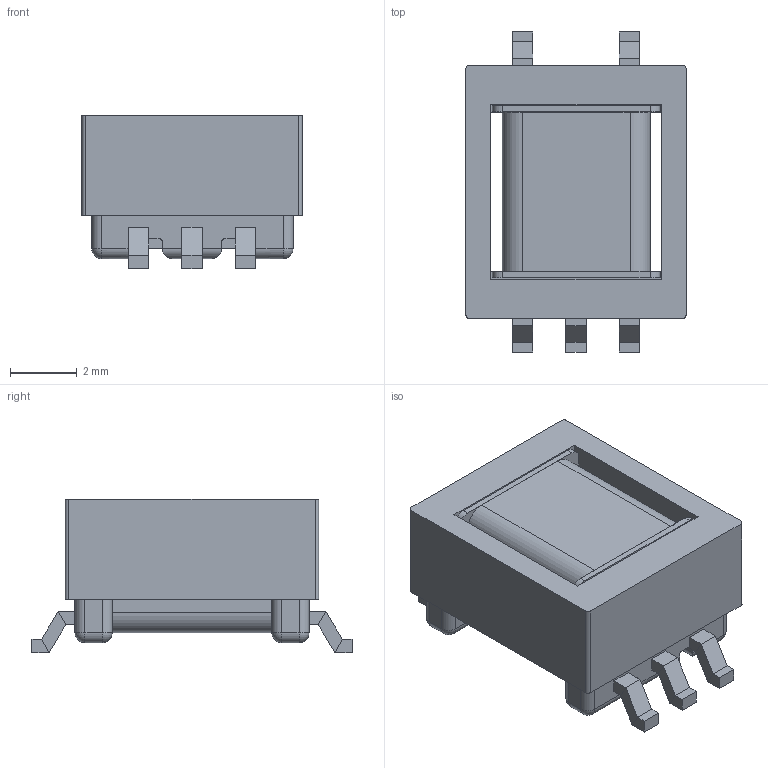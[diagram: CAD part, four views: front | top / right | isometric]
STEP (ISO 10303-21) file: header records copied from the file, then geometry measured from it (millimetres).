
FILE_DESCRIPTION(('Open CASCADE Model'),'2;1');
FILE_NAME('Open CASCADE Shape Model','2026-11-13T07:05:32',('Author'),( 'Open CASCADE'),'Open CASCADE STEP processor 8.0','Open CASCADE 8.0' ,'Unknown');
FILE_SCHEMA(('AUTOMOTIVE_DESIGN { 1 0 10303 214 1 1 1 1 }'));
Length unit declared in the file: millimetre
Products named in the file (4): Open CASCADE STEP translator 8.0 1; Open CASCADE STEP translator 8.0 1.1; Open CASCADE STEP translator 8.0 1.2; Open CASCADE STEP translator 8.0 1.3
Assembly tree (3 placements, depth 2):
  Open CASCADE STEP translator 8.0 1
    Open CASCADE STEP translator 8.0 1.1
    Open CASCADE STEP translator 8.0 1.2
    Open CASCADE STEP translator 8.0 1.3
Bounding box: 6.6 x 9.6 x 4.6 mm (x, y, z)
Volume: 176.3 mm3; surface area: 424.5 mm2
Topology: 3 solids, 3 shells, 183 faces, 452 edges, 268 vertices
Faces by surface type: plane 123, cylinder 52, sphere 8
Entity records: 12116 total; most frequent: CARTESIAN_POINT 3071, DIRECTION 1698, LINE 1142, VECTOR 1142, ORIENTED_EDGE 888, PCURVE 888, DEFINITIONAL_REPRESENTATION 888, EDGE_CURVE 444
